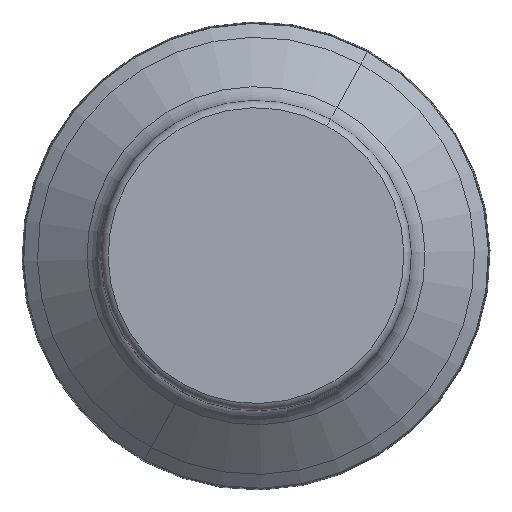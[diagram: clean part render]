
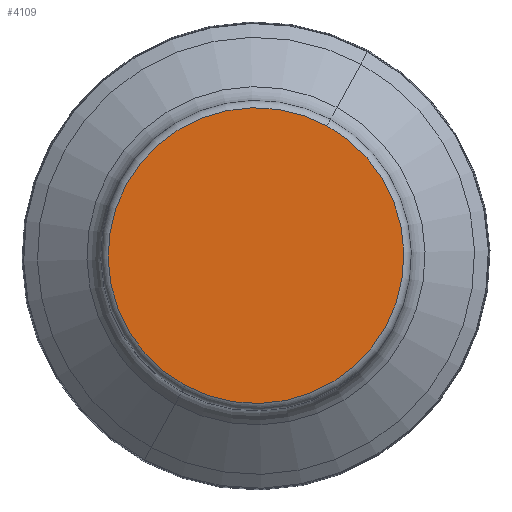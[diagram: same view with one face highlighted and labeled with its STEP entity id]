
A CAD part, top view. The second image highlights one B-rep face of the part: STEP entity #4109.
In plain terms, the highlighted planar face has unit normal (0, 0, 1).
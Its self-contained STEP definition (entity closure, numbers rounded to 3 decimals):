
#4089=AXIS2_PLACEMENT_3D('Plane Axis2P3D',#4086,#4087,#4088) ;
#4093=AXIS2_PLACEMENT_3D('Circle Axis2P3D',#4091,#4092,$) ;
#4102=AXIS2_PLACEMENT_3D('Circle Axis2P3D',#4100,#4101,$) ;
#4086=CARTESIAN_POINT('Axis2P3D Location',(0.,22.872,40.)) ;
#4091=CARTESIAN_POINT('Axis2P3D Location',(0.,0.,40.)) ;
#4095=CARTESIAN_POINT('Vertex',(10.965,20.072,40.)) ;
#4097=CARTESIAN_POINT('Vertex',(-10.965,-20.072,40.)) ;
#4100=CARTESIAN_POINT('Axis2P3D Location',(0.,0.,40.)) ;
#4087=DIRECTION('Axis2P3D Direction',(0.,0.,-1.)) ;
#4088=DIRECTION('Axis2P3D XDirection',(0.,1.,0.)) ;
#4092=DIRECTION('Axis2P3D Direction',(0.,0.,-1.)) ;
#4101=DIRECTION('Axis2P3D Direction',(0.,0.,-1.)) ;
#4106=ORIENTED_EDGE('',*,*,#4099,.F.) ;
#4107=ORIENTED_EDGE('',*,*,#4104,.F.) ;
#4109=ADVANCED_FACE('NO_CUT',(#4108),#4090,.F.) ;
#4094=CIRCLE('generated circle',#4093,22.872) ;
#4103=CIRCLE('generated circle',#4102,22.872) ;
#4099=EDGE_CURVE('',#4096,#4098,#4094,.T.) ;
#4104=EDGE_CURVE('',#4098,#4096,#4103,.T.) ;
#4105=EDGE_LOOP('',(#4106,#4107)) ;
#4108=FACE_OUTER_BOUND('',#4105,.T.) ;
#4090=PLANE('',#4089) ;
#4096=VERTEX_POINT('',#4095) ;
#4098=VERTEX_POINT('',#4097) ;
